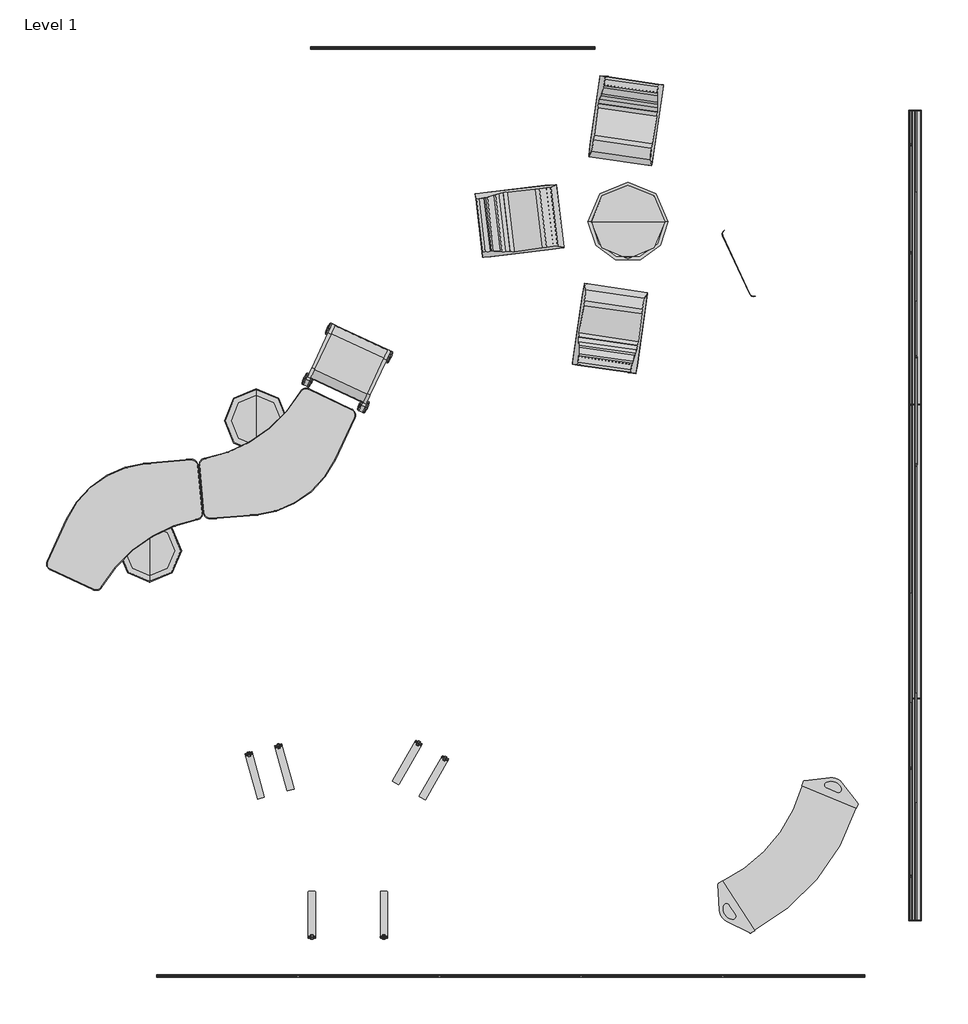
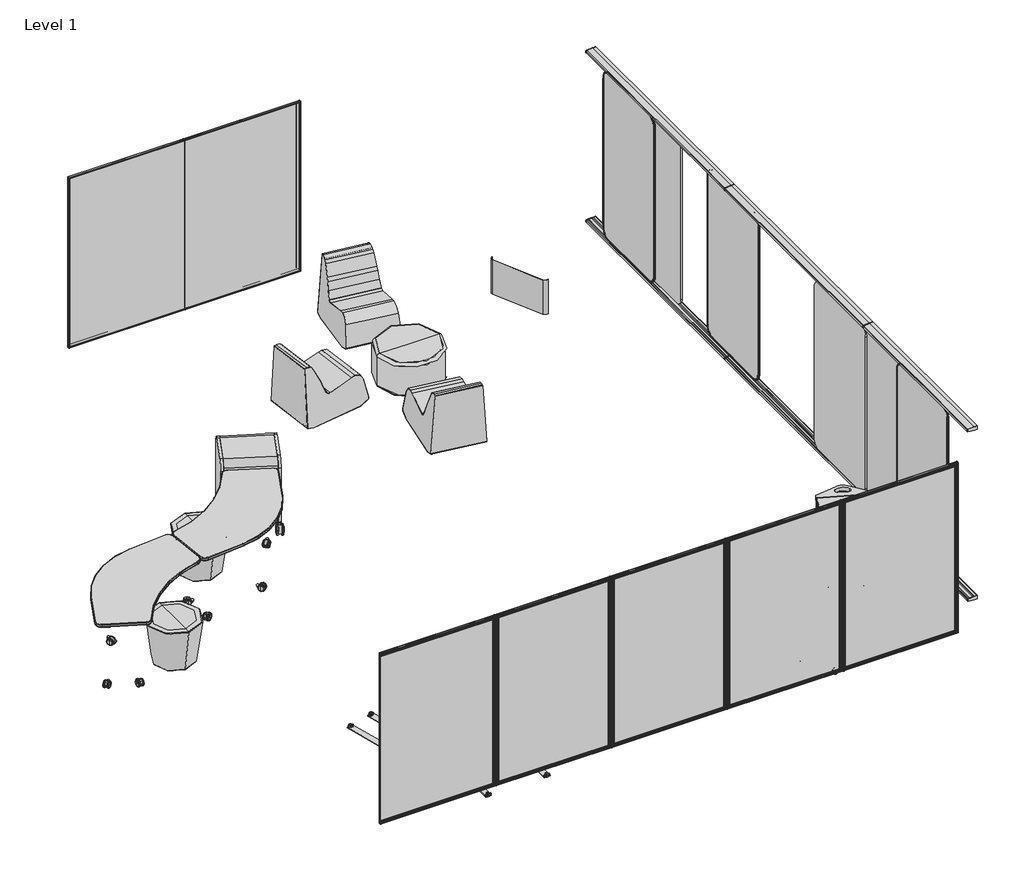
# One storey, incomplete: 40 furniture elements.
"""IFC4 building model written with IfcOpenShell, lengths in millimetres."""

from ifc_helpers import new_model, si_unit, origin, place, context, project, spatial, transform, mapped, element, save
from components import furniture_bfec62f4, casters_8ac8777f, casters_b884fe79, double_ea325dfb, modesty_4cd551a6, ottoman_3f72f61b, polyvision_accessory_board_flow_vertical_5f54c6b5, polyvision_accessory_board_flow_vertical_01536e87, polyvision_accessory_board_flow_vertical_d371d4c1, shelves_1575215d, shelves_8a43c67c, single_6dff62dc, soft_rocker_5f7cf07a, steelcase_am_accessory_board_flex_markerboard_71h_e8a6860e, steelcase_am_accessory_board_flex_wallrail_71h_4a79e921, steelcase_am_accessory_board_flex_wallrail_71h_206964c7, steelcase_am_spacedivision_screen_flex_freestanding_69d37450, stool_93acecdb, storage_93ea17b7

model = new_model("IFC4")

# Units and contexts
model_context = context("Model", 3, world=origin())
ifc_project = project(units=[si_unit("LENGTHUNIT", "METRE", prefix="MILLI")], contexts=[model_context])

# Site, building, storey
site = spatial("IfcSite", under=ifc_project)
building = spatial("IfcBuilding", under=site)
storey = spatial("IfcBuildingStorey", under=building, Name="Level 1", Elevation=0.0)

# Furniture
placement = place(None, origin())
furniture_shape = furniture_bfec62f4(model_context)
element("IfcFurniture", 1, ObjectType="SmithSystem_AM_Table_Education_Elemental_Activity_Crescent_30Dx60W : 30D x 60W", at=placement, inside=storey, context=model_context, shape_type="MappedRepresentation", body=[
    mapped(furniture_shape, transform((-66292.5389107, -79398.4378318, 0.0), x_axis=(-0.8199727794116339, -0.5724025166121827, 0.0), y_axis=(0.5724025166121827, -0.8199727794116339, 0.0), z_axis=(0.0, 0.0, 1.0))),
])
element("IfcFurniture", 2, ObjectType="SmithSystem_AM_Table_Education_Elemental_Activity_Crescent_30Dx60W : 30D x 60W", at=placement, inside=storey, context=model_context, shape_type="MappedRepresentation", body=[
    mapped(furniture_shape, transform((-69597.8742943, -79625.5769848, 0.0), x_axis=(0.8166797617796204, 0.5770911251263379, 0.0), y_axis=(-0.5770911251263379, 0.8166797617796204, 0.0), z_axis=(0.0, 0.0, 1.0))),
])
casters_shape = casters_8ac8777f(model_context)
element("IfcFurniture", 3, ObjectType="SmithSystem_AM_Table_Education_Elemental_Activity_Caster : Casters", at=placement, inside=storey, context=model_context, shape_type="MappedRepresentation", body=[
    mapped(casters_shape, transform((-66779.9724225, -78912.3665807, 0.0), x_axis=(-0.7323318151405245, -0.6809479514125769, 0.0), y_axis=(0.6809479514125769, -0.7323318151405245, 0.0), z_axis=(0.0, 0.0, 1.0))),
])
element("IfcFurniture", 4, ObjectType="SmithSystem_AM_Table_Education_Elemental_Activity_Caster : Casters", at=placement, inside=storey, context=model_context, shape_type="MappedRepresentation", body=[
    mapped(casters_shape, transform((-67055.1067171, -78777.2411619, 0.0), x_axis=(-0.05375814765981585, -0.9985539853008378, 0.0), y_axis=(0.9985539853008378, -0.05375814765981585, 0.0), z_axis=(0.0, 0.0, 1.0))),
])
element("IfcFurniture", 5, ObjectType="SmithSystem_AM_Table_Education_Elemental_Activity_Caster : Casters", at=placement, inside=storey, context=model_context, shape_type="MappedRepresentation", body=[
    mapped(casters_shape, transform((-69107.6638557, -80108.8475256, 0.0), x_axis=(0.7284183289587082, 0.685132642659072, 0.0), y_axis=(-0.685132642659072, 0.7284183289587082, 0.0), z_axis=(0.0, 0.0, 1.0))),
])
element("IfcFurniture", 6, ObjectType="SmithSystem_AM_Table_Education_Elemental_Activity_Caster : Casters", at=placement, inside=storey, context=model_context, shape_type="MappedRepresentation", body=[
    mapped(casters_shape, transform((-68831.759881, -80242.3943547, 0.0), x_axis=(0.04803608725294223, 0.998845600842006, 0.0), y_axis=(-0.998845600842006, 0.04803608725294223, 0.0), z_axis=(0.0, 0.0, 1.0))),
])
casters_2_shape = casters_b884fe79(model_context)
element("IfcFurniture", 7, ObjectType="SmithSystem_AM_Table_Education_Elemental_Activity_Caster : Casters", at=placement, inside=storey, context=model_context, shape_type="MappedRepresentation", body=[
    mapped(casters_2_shape, transform((-67148.4528932, -79503.5636173, 0.0), x_axis=(-0.5724075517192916, 0.819969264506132, 0.0), y_axis=(-0.819969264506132, -0.5724075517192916, 0.0), z_axis=(0.0, 0.0, 1.0))),
])
element("IfcFurniture", 8, ObjectType="SmithSystem_AM_Table_Education_Elemental_Activity_Caster : Casters", at=placement, inside=storey, context=model_context, shape_type="MappedRepresentation", body=[
    mapped(casters_2_shape, transform((-67830.4333118, -79645.6670898, 0.0), x_axis=(0.8916545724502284, 0.45271638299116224, 0.0), y_axis=(-0.45271638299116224, 0.8916545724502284, 0.0), z_axis=(0.0, 0.0, 1.0))),
])
element("IfcFurniture", 9, ObjectType="SmithSystem_AM_Table_Education_Elemental_Activity_Caster : Casters", at=placement, inside=storey, context=model_context, shape_type="MappedRepresentation", body=[
    mapped(casters_2_shape, transform((-67862.4350136, -79340.8168808, 0.0), x_axis=(0.9558825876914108, -0.29374900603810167, 0.0), y_axis=(0.29374900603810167, 0.9558825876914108, 0.0), z_axis=(0.0, 0.0, 1.0))),
])
element("IfcFurniture", 10, ObjectType="SmithSystem_AM_Table_Education_Elemental_Activity_Caster : Casters", at=placement, inside=storey, context=model_context, shape_type="MappedRepresentation", body=[
    mapped(casters_2_shape, transform((-68742.5766746, -79515.5489974, 0.0), x_axis=(0.5770961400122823, -0.8166762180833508, 0.0), y_axis=(0.8166762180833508, 0.5770961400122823, 0.0), z_axis=(0.0, 0.0, 1.0))),
])
element("IfcFurniture", 11, ObjectType="SmithSystem_AM_Table_Education_Elemental_Activity_Caster : Casters", at=placement, inside=storey, context=model_context, shape_type="MappedRepresentation", body=[
    mapped(casters_2_shape, transform((-68061.4216263, -79369.5404758, 0.0), x_axis=(-0.8890461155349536, -0.4578176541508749, 0.0), y_axis=(0.4578176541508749, -0.8890461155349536, 0.0), z_axis=(0.0, 0.0, 1.0))),
])
element("IfcFurniture", 12, ObjectType="SmithSystem_AM_Table_Education_Elemental_Activity_Caster : Casters", at=placement, inside=storey, context=model_context, shape_type="MappedRepresentation", body=[
    mapped(casters_2_shape, transform((-68027.6738218, -79674.2023286, 0.0), x_axis=(-0.9575499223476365, 0.28826749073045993, 0.0), y_axis=(-0.28826749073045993, -0.9575499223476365, 0.0), z_axis=(0.0, 0.0, 1.0))),
])
double_shape = double_ea325dfb(model_context)
element("IfcFurniture", 13, ObjectType="SmithSystem_AM_Seating_Education_Flowform_LearnLounge_MobileKit_Double : Double", at=placement, inside=storey, context=model_context, shape_type="MappedRepresentation", body=[
    mapped(double_shape, transform((-66725.4956903, -82978.1089859, 0.0), x_axis=(-1.0, 0.0, 0.0), y_axis=(0.0, -1.0, 0.0), z_axis=(0.0, 0.0, 1.0))),
])
modesty_shape = modesty_4cd551a6(model_context)
element("IfcFurniture", 14, ObjectType="SmithSystem_AM_SpaceDivision_Panel_Silhouette_SitStand_ModestyPrivacy : Modesty", at=placement, inside=storey, context=model_context, shape_type="MappedRepresentation", body=[
    mapped(modesty_shape, transform((-63070.1378215, -77446.7632859, 0.0), x_axis=(-0.42261826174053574, 0.9063077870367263, 0.0), y_axis=(-0.9063077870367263, -0.42261826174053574, 0.0), z_axis=(0.0, 0.0, 1.0))),
])
ottoman_shape = ottoman_3f72f61b(model_context)
element("IfcFurniture", 15, ObjectType="SmithSystem_AM_Seating_Education_Flowform_Ottoman_Circle : Ottoman", at=placement, inside=storey, context=model_context, shape_type="MappedRepresentation", body=[
    mapped(ottoman_shape, transform((-64402.2249875, -77292.7899463, 0.0), x_axis=(1.0, 0.0, 0.0), y_axis=(0.0, 1.0, 0.0), z_axis=(0.0, 0.0, 1.0))),
])
polyvision_accessory_board_flow_vertical_shape = polyvision_accessory_board_flow_vertical_5f54c6b5(model_context)
element("IfcFurniture", 16, ObjectType="PolyVision_Accessory_Board_Flow_Vertical : 47W x 72H (1185 W x 1830 H)", at=placement, inside=storey, context=model_context, shape_type="MappedRepresentation", body=[
    mapped(polyvision_accessory_board_flow_vertical_shape, transform((-63029.5916747, -83544.6879139, 355.6), x_axis=(-1.0, 0.0, 0.0), y_axis=(0.0, -1.0, 0.0), z_axis=(0.0, 0.0, 1.0))),
])
element("IfcFurniture", 17, ObjectType="PolyVision_Accessory_Board_Flow_Vertical : 47W x 72H (1185 W x 1830 H)", at=placement, inside=storey, context=model_context, shape_type="MappedRepresentation", body=[
    mapped(polyvision_accessory_board_flow_vertical_shape, transform((-66443.1244948, -75850.5682004, 355.6), x_axis=(1.0, 0.0, 0.0), y_axis=(0.0, 1.0, 0.0), z_axis=(0.0, 0.0, 1.0))),
])
polyvision_accessory_board_flow_vertical_2_shape = polyvision_accessory_board_flow_vertical_01536e87(model_context)
element("IfcFurniture", 18, ObjectType="PolyVision_Accessory_Board_Flow_Vertical : 47W x 72H (1185 W x 1830 H)", at=placement, inside=storey, context=model_context, shape_type="MappedRepresentation", body=[
    mapped(polyvision_accessory_board_flow_vertical_2_shape, transform((-64203.7260676, -83544.6879139, 355.6), x_axis=(-1.0, 0.0, 0.0), y_axis=(0.0, -1.0, 0.0), z_axis=(0.0, 0.0, 1.0))),
])
element("IfcFurniture", 19, ObjectType="PolyVision_Accessory_Board_Flow_Vertical : 47W x 72H (1185 W x 1830 H)", at=placement, inside=storey, context=model_context, shape_type="MappedRepresentation", body=[
    mapped(polyvision_accessory_board_flow_vertical_2_shape, transform((-65377.8604605, -83544.6879139, 355.6), x_axis=(-1.0, 0.0, 0.0), y_axis=(0.0, -1.0, 0.0), z_axis=(0.0, 0.0, 1.0))),
])
element("IfcFurniture", 20, ObjectType="PolyVision_Accessory_Board_Flow_Vertical : 47W x 72H (1185 W x 1830 H)", at=placement, inside=storey, context=model_context, shape_type="MappedRepresentation", body=[
    mapped(polyvision_accessory_board_flow_vertical_2_shape, transform((-66551.9948534, -83544.6879139, 355.6), x_axis=(-1.0, 0.0, 0.0), y_axis=(0.0, -1.0, 0.0), z_axis=(0.0, 0.0, 1.0))),
])
element("IfcFurniture", 21, ObjectType="PolyVision_Accessory_Board_Flow_Vertical : 47W x 72H (1185 W x 1830 H)", at=placement, inside=storey, context=model_context, shape_type="MappedRepresentation", body=[
    mapped(polyvision_accessory_board_flow_vertical_2_shape, transform((-67726.1292462, -83544.6879139, 355.6), x_axis=(-1.0, 0.0, 0.0), y_axis=(0.0, -1.0, 0.0), z_axis=(0.0, 0.0, 1.0))),
])
polyvision_accessory_board_flow_vertical_3_shape = polyvision_accessory_board_flow_vertical_d371d4c1(model_context)
element("IfcFurniture", 22, ObjectType="PolyVision_Accessory_Board_Flow_Vertical : 47W x 72H (1185 W x 1830 H)", at=placement, inside=storey, context=model_context, shape_type="MappedRepresentation", body=[
    mapped(polyvision_accessory_board_flow_vertical_3_shape, transform((-65268.9901019, -75850.5682004, 355.6), x_axis=(1.0, 0.0, 0.0), y_axis=(0.0, 1.0, 0.0), z_axis=(0.0, 0.0, 1.0))),
])
shelves_shape = shelves_1575215d(model_context)
shelves_2_shape = shelves_8a43c67c(model_context)
element("IfcFurniture", 23, ObjectType="SmithSystem_AM_Storage_Education_Cascade_Case_Mini : Shelves", at=placement, inside=storey, context=model_context, shape_type="MappedRepresentation", body=[
    mapped(shelves_shape, transform((-66575.2391565, -78801.4301115, 0.0), x_axis=(-0.906307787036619, 0.4226182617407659, 0.0), y_axis=(-0.4226182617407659, -0.906307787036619, 0.0), z_axis=(0.0, 0.0, 1.0))),
    mapped(shelves_2_shape, transform((-66575.2391565, -78801.4301115, 0.0), x_axis=(-0.906307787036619, 0.4226182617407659, 0.0), y_axis=(-0.4226182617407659, -0.906307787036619, 0.0), z_axis=(0.0, 0.0, 1.0))),
])
single_shape = single_6dff62dc(model_context)
element("IfcFurniture", 24, ObjectType="SmithSystem_AM_Seating_Education_Flowform_LearnLounge_MobileKit_Single : Single", at=placement, inside=storey, context=model_context, shape_type="MappedRepresentation", body=[
    mapped(single_shape, transform((-67369.9669972, -81868.3673195, 0.0), x_axis=(0.9648779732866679, 0.2626984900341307, 0.0), y_axis=(-0.2626984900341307, 0.9648779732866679, 0.0), z_axis=(0.0, 0.0, 1.0))),
])
element("IfcFurniture", 25, ObjectType="SmithSystem_AM_Seating_Education_Flowform_LearnLounge_MobileKit_Single : Single", at=placement, inside=storey, context=model_context, shape_type="MappedRepresentation", body=[
    mapped(single_shape, transform((-66132.732804, -81855.1127651, 0.0), x_axis=(0.8680276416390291, -0.49651587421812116, 0.0), y_axis=(0.49651587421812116, 0.8680276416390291, 0.0), z_axis=(0.0, 0.0, 1.0))),
])
soft_rocker_shape = soft_rocker_5f7cf07a(model_context)
element("IfcFurniture", 26, ObjectType="SmithSystem_AM_Seating_Education_Flowform_SoftRocker : Soft Rocker", at=placement, inside=storey, context=model_context, shape_type="MappedRepresentation", body=[
    mapped(soft_rocker_shape, transform((-64502.5189861, -77840.2138542, 0.0), x_axis=(-0.9896155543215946, 0.14373953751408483, 0.0), y_axis=(-0.14373953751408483, -0.9896155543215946, 0.0), z_axis=(0.0, 0.0, 1.0))),
])
element("IfcFurniture", 27, ObjectType="SmithSystem_AM_Seating_Education_Flowform_SoftRocker : Soft Rocker", at=placement, inside=storey, context=model_context, shape_type="MappedRepresentation", body=[
    mapped(soft_rocker_shape, transform((-64964.211974, -77243.5103452, 0.0), x_axis=(-0.11728962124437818, 0.9930977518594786, 0.0), y_axis=(-0.9930977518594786, -0.11728962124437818, 0.0), z_axis=(0.0, 0.0, 1.0))),
])
element("IfcFurniture", 28, ObjectType="SmithSystem_AM_Seating_Education_Flowform_SoftRocker : Soft Rocker", at=placement, inside=storey, context=model_context, shape_type="MappedRepresentation", body=[
    mapped(soft_rocker_shape, transform((-64467.4474014, -76788.7645009, 0.0), x_axis=(0.9896155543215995, -0.14373953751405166, 0.0), y_axis=(0.14373953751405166, 0.9896155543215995, 0.0), z_axis=(0.0, 0.0, 1.0))),
])
steelcase_am_accessory_board_flex_markerboard_71h_shape = steelcase_am_accessory_board_flex_markerboard_71h_e8a6860e(model_context)
element("IfcFurniture", 29, ObjectType="Steelcase_AM_Accessory_Board_Flex_Markerboard : 71H", at=placement, inside=storey, context=model_context, shape_type="MappedRepresentation", body=[
    mapped(steelcase_am_accessory_board_flex_markerboard_71h_shape, transform((-62017.5106913, -82102.9995523, 302.4244622), x_axis=(0.0, 1.0, 0.0), y_axis=(-1.0, 0.0, 0.0), z_axis=(0.0, 0.0, 1.0))),
])
element("IfcFurniture", 30, ObjectType="Steelcase_AM_Accessory_Board_Flex_Markerboard : 71H", at=placement, inside=storey, context=model_context, shape_type="MappedRepresentation", body=[
    mapped(steelcase_am_accessory_board_flex_markerboard_71h_shape, transform((-62062.0876913, -81273.6016492, 302.4244622), x_axis=(0.0, 1.0, 0.0), y_axis=(-1.0, 0.0, 0.0), z_axis=(0.0, 0.0, 1.0))),
])
element("IfcFurniture", 31, ObjectType="Steelcase_AM_Accessory_Board_Flex_Markerboard : 71H", at=placement, inside=storey, context=model_context, shape_type="MappedRepresentation", body=[
    mapped(steelcase_am_accessory_board_flex_markerboard_71h_shape, transform((-62017.5106913, -77947.5664075, 302.4244622), x_axis=(0.0, 1.0, 0.0), y_axis=(-1.0, 0.0, 0.0), z_axis=(0.0, 0.0, 1.0))),
])
steelcase_am_accessory_board_flex_wallrail_71h_shape = steelcase_am_accessory_board_flex_wallrail_71h_4a79e921(model_context)
element("IfcFurniture", 32, ObjectType="Steelcase_AM_Accessory_Board_Flex_WallRail : 71H", at=placement, inside=storey, context=model_context, shape_type="MappedRepresentation", body=[
    mapped(steelcase_am_accessory_board_flex_wallrail_71h_shape, transform((-61971.2826913, -78804.0721609, 0.0), x_axis=(0.0, -1.0, 0.0), y_axis=(1.0, 0.0, 0.0), z_axis=(0.0, 0.0, 1.0))),
])
element("IfcFurniture", 33, ObjectType="Steelcase_AM_Accessory_Board_Flex_WallRail : 71H", at=placement, inside=storey, context=model_context, shape_type="MappedRepresentation", body=[
    mapped(steelcase_am_accessory_board_flex_wallrail_71h_shape, transform((-61971.2826913, -76365.6721609, 0.0), x_axis=(0.0, -1.0, 0.0), y_axis=(1.0, 0.0, 0.0), z_axis=(0.0, 0.0, 1.0))),
])
steelcase_am_accessory_board_flex_wallrail_71h_2_shape = steelcase_am_accessory_board_flex_wallrail_71h_206964c7(model_context)
element("IfcFurniture", 34, ObjectType="Steelcase_AM_Accessory_Board_Flex_WallRail : 71H", at=placement, inside=storey, context=model_context, shape_type="MappedRepresentation", body=[
    mapped(steelcase_am_accessory_board_flex_wallrail_71h_2_shape, transform((-61971.2826913, -81242.4721609, 0.0), x_axis=(0.0, -1.0, 0.0), y_axis=(1.0, 0.0, 0.0), z_axis=(0.0, 0.0, 1.0))),
])
steelcase_am_spacedivision_screen_flex_freestanding_shape = steelcase_am_spacedivision_screen_flex_freestanding_69d37450(model_context)
element("IfcFurniture", 35, ObjectType="Steelcase_AM_SpaceDivision_Screen_Flex_Freestanding : 71H x 36W", at=placement, inside=storey, context=model_context, shape_type="MappedRepresentation", body=[
    mapped(steelcase_am_spacedivision_screen_flex_freestanding_shape, transform((-62055.1026913, -82727.0659486, 302.4244622), x_axis=(0.0, 1.0, 0.0), y_axis=(-1.0, 0.0, 0.0), z_axis=(0.0, 0.0, 1.0))),
])
element("IfcFurniture", 36, ObjectType="Steelcase_AM_SpaceDivision_Screen_Flex_Freestanding : 71H x 36W", at=placement, inside=storey, context=model_context, shape_type="MappedRepresentation", body=[
    mapped(steelcase_am_spacedivision_screen_flex_freestanding_shape, transform((-62010.5256913, -79316.5470965, 302.4244622), x_axis=(0.0, 1.0, 0.0), y_axis=(-1.0, 0.0, 0.0), z_axis=(0.0, 0.0, 1.0))),
])
element("IfcFurniture", 37, ObjectType="Steelcase_AM_SpaceDivision_Screen_Flex_Freestanding : 71H x 36W", at=placement, inside=storey, context=model_context, shape_type="MappedRepresentation", body=[
    mapped(steelcase_am_spacedivision_screen_flex_freestanding_shape, transform((-62055.1026913, -77557.7085662, 302.4244622), x_axis=(0.0, 1.0, 0.0), y_axis=(-1.0, 0.0, 0.0), z_axis=(0.0, 0.0, 1.0))),
])
stool_shape = stool_93acecdb(model_context)
element("IfcFurniture", 38, ObjectType="SmithSystem_AM_Seating_Education_Flowform_TaperedCylinderStool : Stool", at=placement, inside=storey, context=model_context, shape_type="MappedRepresentation", body=[
    mapped(stool_shape, transform((-67486.1764857, -78939.9606024, 0.0), x_axis=(1.0, 0.0, 0.0), y_axis=(0.0, 1.0, 0.0), z_axis=(0.0, 0.0, 1.0))),
])
element("IfcFurniture", 39, ObjectType="SmithSystem_AM_Seating_Education_Flowform_TaperedCylinderStool : Stool", at=placement, inside=storey, context=model_context, shape_type="MappedRepresentation", body=[
    mapped(stool_shape, transform((-68368.0416471, -80017.256221, 0.0), x_axis=(1.0, 0.0, 0.0), y_axis=(0.0, 1.0, 0.0), z_axis=(0.0, 0.0, 1.0))),
])
storage_shape = storage_93ea17b7(model_context)
element("IfcFurniture", 40, ObjectType="SmithSystem_AM_Storage_Education_Flowform_Mobile_Curved : Storage", at=placement, inside=storey, context=model_context, shape_type="MappedRepresentation", body=[
    mapped(storage_shape, transform((-63201.6557253, -82435.4190928, 0.0), x_axis=(0.6401679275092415, 0.7682350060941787, 0.0), y_axis=(-0.7682350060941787, 0.6401679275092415, 0.0), z_axis=(0.0, 0.0, 1.0))),
])

save(model, "model.ifc")
